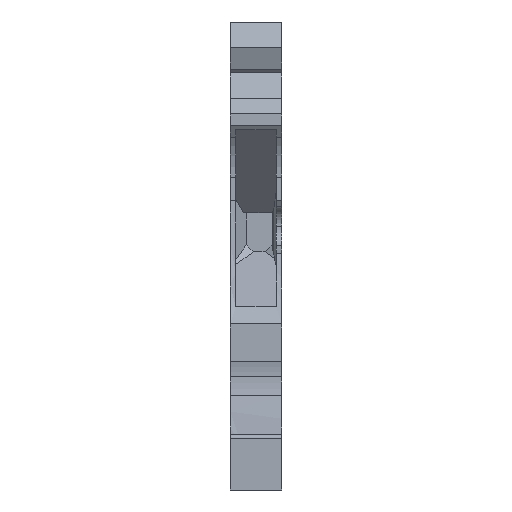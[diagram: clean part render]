
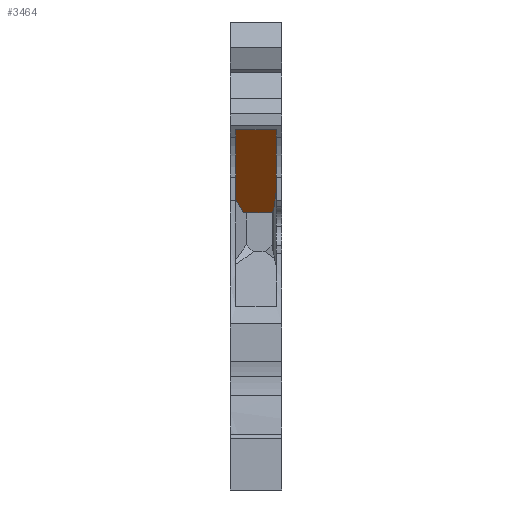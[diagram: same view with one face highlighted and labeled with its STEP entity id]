
A CAD part, front view. The second image highlights one B-rep face of the part: STEP entity #3464.
In plain terms, the highlighted planar face has unit normal (0, -0.715, -0.699).
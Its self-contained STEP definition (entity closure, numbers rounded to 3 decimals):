
#3137=CARTESIAN_POINT('',(4.6,2.485,36.066));
#3138=VERTEX_POINT('',#3137);
#3145=CARTESIAN_POINT('',(4.6,8.5,29.911));
#3146=VERTEX_POINT('',#3145);
#3147=CARTESIAN_POINT('',(4.6,8.5,29.911));
#3148=DIRECTION('',(-0.,-0.699,0.715));
#3149=VECTOR('',#3148,8.606);
#3150=LINE('',#3147,#3149);
#3151=EDGE_CURVE('',#3146,#3138,#3150,.T.);
#3189=CARTESIAN_POINT('',(0.55,2.485,36.066));
#3190=VERTEX_POINT('',#3189);
#3197=CARTESIAN_POINT('',(0.55,2.485,36.066));
#3198=DIRECTION('',(1.,-0.,-0.));
#3199=VECTOR('',#3198,4.05);
#3200=LINE('',#3197,#3199);
#3201=EDGE_CURVE('',#3190,#3138,#3200,.T.);
#3252=CARTESIAN_POINT('',(0.55,9.256,29.137));
#3253=VERTEX_POINT('',#3252);
#3260=CARTESIAN_POINT('',(0.55,2.485,36.066));
#3261=DIRECTION('',(0.,0.699,-0.715));
#3262=VECTOR('',#3261,9.689);
#3263=LINE('',#3260,#3262);
#3264=EDGE_CURVE('',#3190,#3253,#3263,.T.);
#3416=CARTESIAN_POINT('',(1.333,10.612,27.75));
#3417=VERTEX_POINT('',#3416);
#3424=CARTESIAN_POINT('',(0.55,9.256,29.137));
#3425=CARTESIAN_POINT('',(1.333,10.612,27.75));
#3426=B_SPLINE_CURVE_WITH_KNOTS('',1,(#3424,#3425),.UNSPECIFIED.,.F.,.F.,(2,2),(0.,2.092),.UNSPECIFIED.);
#3427=EDGE_CURVE('',#3253,#3417,#3426,.T.);
#3433=CARTESIAN_POINT('',(6.259,10.25,28.12));
#3434=DIRECTION('',(0.,0.715,0.699));
#3435=DIRECTION('',(-1.,0.,0.));
#3436=AXIS2_PLACEMENT_3D('',#3433,#3434,#3435);
#3437=PLANE('',#3436);
#3438=ORIENTED_EDGE('',*,*,#3201,.F.);
#3439=ORIENTED_EDGE('',*,*,#3264,.T.);
#3440=ORIENTED_EDGE('',*,*,#3427,.T.);
#3441=CARTESIAN_POINT('',(4.214,10.612,27.75));
#3442=VERTEX_POINT('',#3441);
#3443=CARTESIAN_POINT('',(4.214,10.612,27.75));
#3444=DIRECTION('',(-1.,0.,0.));
#3445=VECTOR('',#3444,2.882);
#3446=LINE('',#3443,#3445);
#3447=EDGE_CURVE('',#3442,#3417,#3446,.T.);
#3448=ORIENTED_EDGE('',*,*,#3447,.F.);
#3449=CARTESIAN_POINT('',(4.4,10.123,28.251));
#3450=VERTEX_POINT('',#3449);
#3451=CARTESIAN_POINT('',(4.214,10.612,27.75));
#3452=CARTESIAN_POINT('',(4.4,10.123,28.251));
#3453=B_SPLINE_CURVE_WITH_KNOTS('',1,(#3451,#3452),.UNSPECIFIED.,.F.,.F.,(2,2),(0.,0.725),.UNSPECIFIED.);
#3454=EDGE_CURVE('',#3442,#3450,#3453,.T.);
#3455=ORIENTED_EDGE('',*,*,#3454,.T.);
#3456=CARTESIAN_POINT('',(4.4,10.123,28.251));
#3457=CARTESIAN_POINT('',(4.6,8.5,29.911));
#3458=B_SPLINE_CURVE_WITH_KNOTS('',1,(#3456,#3457),.UNSPECIFIED.,.F.,.F.,(2,2),(0.,2.33),.UNSPECIFIED.);
#3459=EDGE_CURVE('',#3450,#3146,#3458,.T.);
#3460=ORIENTED_EDGE('',*,*,#3459,.T.);
#3461=ORIENTED_EDGE('',*,*,#3151,.T.);
#3462=EDGE_LOOP('',(#3438,#3439,#3440,#3448,#3455,#3460,#3461));
#3463=FACE_BOUND('',#3462,.T.);
#3464=ADVANCED_FACE('',(#3463),#3437,.F.);
